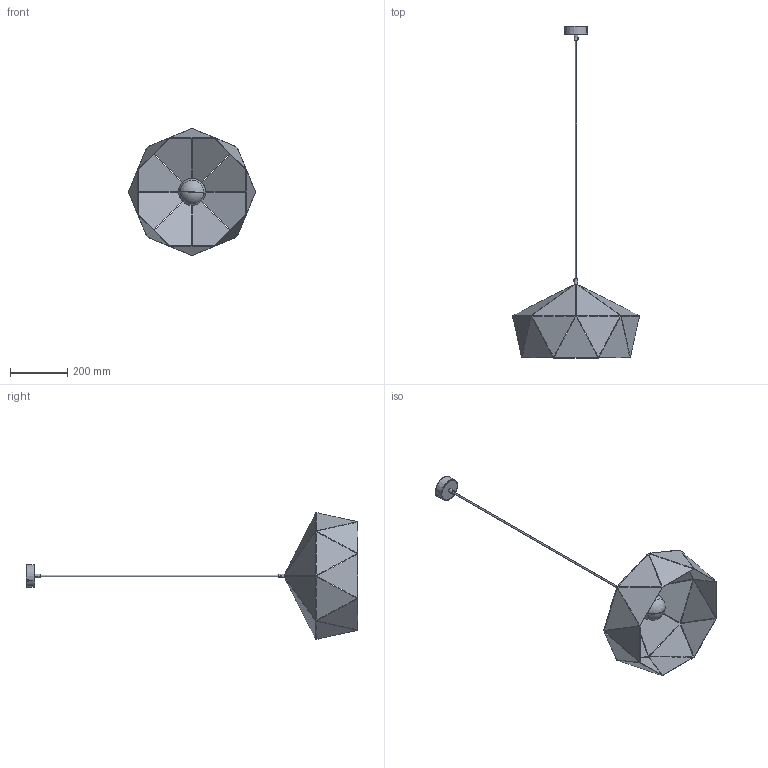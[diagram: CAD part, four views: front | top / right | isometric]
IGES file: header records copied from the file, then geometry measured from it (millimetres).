
Start section: SolidWorks IGES file using analytic representation for surfaces
Global section: file name: E:\3D lampy\Diamond\Diamond_6617\Diamond_6617.IGS; native system: SolidWorks 2016; preprocessor: SolidWorks 2016; author: Asia; date: 161208.152243; units: millimetre
Bounding box: 444.23 x 1160 x 444.23 mm (x, y, z)
Surface area: 810041.3 mm2 (no closed solid volume)
Topology: 0 solids, 0 shells, 974 faces, 18160 edges, 18155 vertices
Faces by surface type: revolution 528, bspline 446
